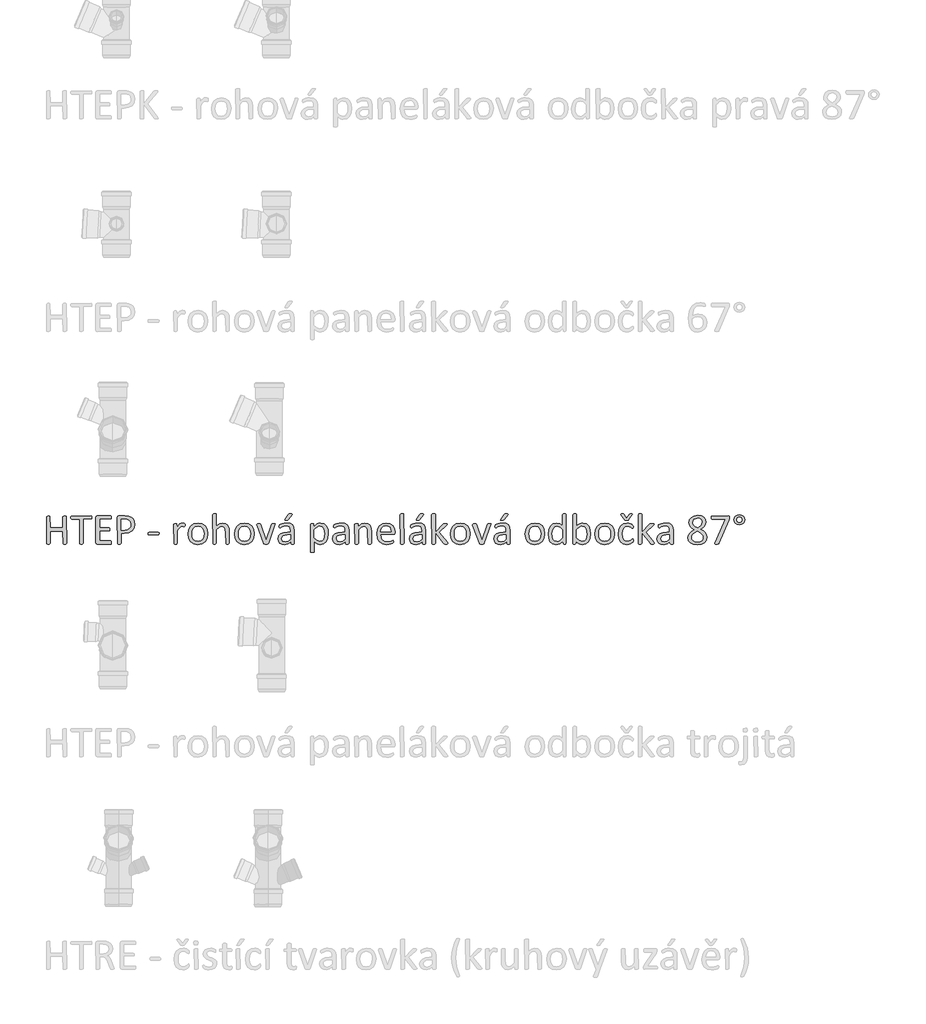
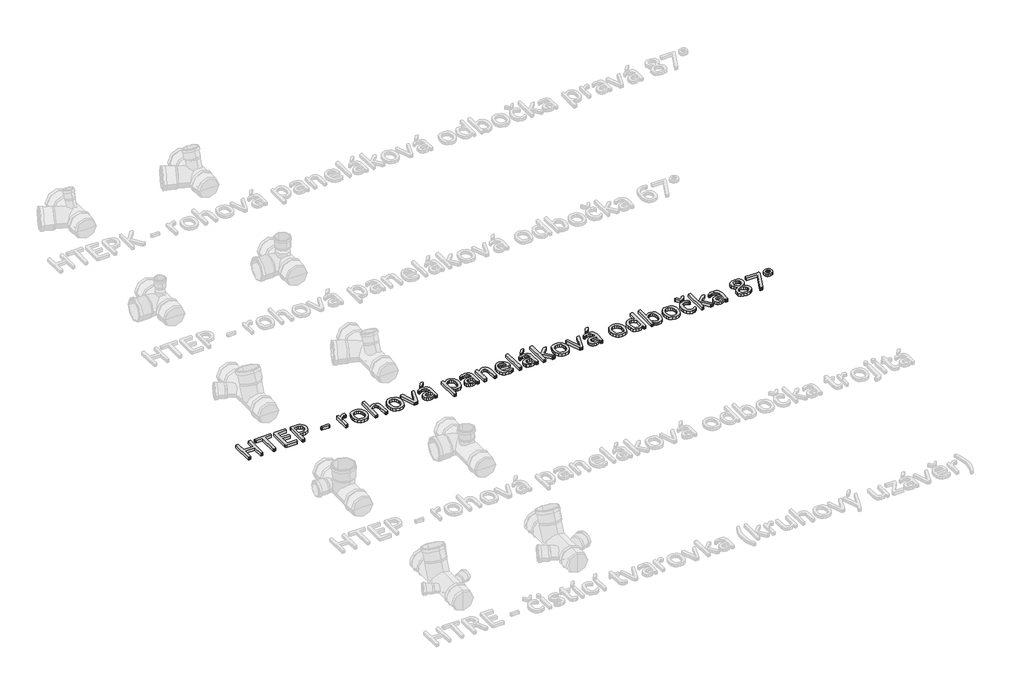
# One storey, part 10 of 26: 1 proxy.
"""IFC4 building model written with IfcOpenShell, lengths in millimetres."""

from ifc_helpers import new_model, si_unit, origin, origin_with_axes, place, context, project, spatial, polyline, outline, extrude, element, save

model = new_model("IFC4")

# Units and contexts
model_context = context("Model", 3, world=origin())
ifc_project = project(units=[si_unit("LENGTHUNIT", "METRE", prefix="MILLI")], contexts=[model_context])

# Site, building, storey
site = spatial("IfcSite", under=ifc_project)
building = spatial("IfcBuilding", under=site)
storey = spatial("IfcBuildingStorey", under=building, Name="Podlaží 1", Elevation=0.0)

# Proxy
placement = place(None, origin())
element("IfcBuildingElementProxy", 1, Name="120mm Arial", ObjectType="120mm Arial", at=placement, inside=storey, context=model_context, shape_type="SweptSolid", body=[
    extrude(outline(polyline([(-20465.0657483, 1508.0506997), (-20469.2817655, 1505.3184311), (-20473.1358927, 1505.0832026), (-20477.1166815, 1505.3184311), (-20479.5775327, 1505.8612659), (-20481.2784151, 1560.6694889), (-20534.5486061, 1560.6694889), (-20534.5486061, 1508.0145107), (-20538.7465288, 1505.3184311), (-20542.6549395, 1505.0832026), (-20546.5271613, 1505.3184311), (-20549.0603905, 1505.8793604), (-20550.7612729, 1622.5526591), (-20546.5271613, 1625.2849277), (-20542.6549395, 1625.5201562), (-20538.7465288, 1625.2849277), (-20536.2494886, 1624.7239984), (-20534.5486061, 1574.5660604), (-20481.2784151, 1574.5660604), (-20481.2784151, 1622.5526591), (-20477.1166815, 1625.2849277), (-20473.1358927, 1625.5201562), (-20469.2817655, 1625.2849277), (-20466.7666308, 1624.7239984), (-20465.0657483, 1508.0506997)])), origin_with_axes(), (0.0, 0.0, 1.0), 15.0),
    extrude(outline(polyline([(-20356.2092711, 1618.4633034), (-20356.390216, 1615.3329559), (-20356.9873343, 1613.1978056), (-20393.2667952, 1611.6235846), (-20393.2667952, 1508.0506997), (-20397.4647179, 1505.3184311), (-20401.3731287, 1505.0832026), (-20405.2453504, 1505.3184311), (-20407.7785796, 1505.8793604), (-20409.4794621, 1611.6235846), (-20443.3885442, 1611.6235846), (-20446.3017578, 1615.3329559), (-20446.5369862, 1618.4633034), (-20446.3017578, 1621.6660289), (-20445.686545, 1623.9097462), (-20359.3939021, 1625.5201562), (-20357.0054288, 1623.9097462), (-20356.390216, 1621.6660289), (-20356.2092711, 1618.4633034)])), origin_with_axes(), (0.0, 0.0, 1.0), 15.0),
    extrude(outline(polyline([(-20272.8298417, 1511.9952994), (-20273.0107867, 1508.9192354), (-20273.6621885, 1506.7298016), (-20274.7478581, 1505.463187), (-20334.0254212, 1505.0832026), (-20338.0785879, 1506.5307622), (-20339.9966043, 1511.5972206), (-20339.9966043, 1619.0061382), (-20338.0604934, 1624.0725966), (-20333.9530432, 1625.5201562), (-20276.0506617, 1625.5201562), (-20273.680283, 1623.8735572), (-20273.0650701, 1621.6841234), (-20272.8298417, 1618.4271144), (-20273.0650701, 1615.3691449), (-20273.680283, 1613.2159001), (-20323.7839374, 1611.6235846), (-20323.7839374, 1574.5660604), (-20282.9627585, 1574.5660604), (-20280.5742852, 1572.865178), (-20279.9590724, 1570.6757442), (-20279.7781275, 1567.3644517), (-20279.9590724, 1564.2702932), (-20280.5742852, 1562.1713319), (-20323.7839374, 1560.6694889), (-20323.7839374, 1518.9797742), (-20276.0868507, 1518.9797742), (-20273.6621885, 1517.3874587), (-20273.0107867, 1515.2342139), (-20272.8298417, 1511.9952994)])), origin_with_axes(), (0.0, 0.0, 1.0), 15.0),
    extrude(outline(polyline([(-20173.2377455, 1590.4892153), (-20176.2052426, 1574.3127375), (-20184.7096549, 1562.0265759), (-20198.2805255, 1554.1735655), (-20217.4606894, 1551.4051078), (-20231.140127, 1551.4051078), (-20231.140127, 1508.0506997), (-20232.8771985, 1505.8793604), (-20235.3380497, 1505.3184311), (-20239.2464605, 1505.0832026), (-20243.1548712, 1505.3184311), (-20245.6519114, 1505.8793604), (-20247.3527939, 1618.6804373), (-20245.3985885, 1623.9459352), (-20241.0197209, 1625.5201562), (-20215.1807831, 1625.5201562), (-20207.6896625, 1625.1944553), (-20199.2033447, 1623.8011792), (-20189.2151839, 1619.838485), (-20180.6022047, 1612.6911598), (-20175.1557619, 1602.8477549), (-20173.2377455, 1590.4892153)]), holes=[polyline([(-20189.4504124, 1589.2226008), (-20192.2369645, 1601.0021165), (-20199.1309668, 1608.0408747), (-20207.6172846, 1610.9902773), (-20216.1578858, 1611.6235846), (-20231.140127, 1611.6235846), (-20231.140127, 1565.3016794), (-20216.5197757, 1565.3016794), (-20204.3059921, 1567.0930343), (-20196.1453752, 1572.0509257), (-20191.1512948, 1579.6325188), (-20189.4504124, 1589.2226008)])]), origin_with_axes(), (0.0, 0.0, 1.0), 15.0),
    extrude(outline(polyline([(-20069.0134588, 1550.2832492), (-20069.8639001, 1545.7234367), (-20072.3428458, 1544.4568221), (-20111.9335991, 1544.4568221), (-20114.4849228, 1545.7596256), (-20115.335364, 1550.2832492), (-20114.4849228, 1554.7706838), (-20111.9335991, 1556.0372984), (-20072.3428458, 1556.0372984), (-20069.2486873, 1552.9974233), (-20069.0134588, 1550.2832492)])), origin_with_axes(), (0.0, 0.0, 1.0), 15.0),
    extrude(outline(polyline([(-19957.8408864, 1586.1465367), (-19957.9313588, 1582.8533388), (-19958.2932487, 1580.7181885), (-19961.8397696, 1579.5058574), (-19964.1739593, 1580.3382041), (-19967.0871729, 1581.1343618), (-19970.5794103, 1581.5143462), (-19974.9944669, 1580.519149), (-19979.5361849, 1577.2621401), (-19984.5121708, 1571.254768), (-19990.26622, 1562.0808594), (-19990.26622, 1507.9059437), (-19994.3917647, 1505.2641476), (-19998.4087424, 1505.0832026), (-20002.3533421, 1505.2641476), (-20004.8503823, 1505.8069824), (-20006.4788868, 1590.2720814), (-20002.751421, 1592.9500666), (-19999.0963332, 1593.0948225), (-19995.5136233, 1592.9500666), (-19993.306095, 1592.4072317), (-19991.8223465, 1578.2573373), (-19985.5616515, 1586.8341275), (-19980.0066418, 1592.0634363), (-19974.8316164, 1594.687138), (-19969.6384966, 1595.4109178), (-19966.9967004, 1595.2842563), (-19963.8844474, 1594.795705), (-19960.9531394, 1593.9814527), (-19959.107501, 1593.0948225), (-19957.8770754, 1589.4035457), (-19957.8408864, 1586.1465367)])), origin_with_axes(), (0.0, 0.0, 1.0), 15.0),
    extrude(outline(polyline([(-19860.5648854, 1549.9937373), (-19863.2428706, 1531.0126129), (-19871.2587315, 1516.0665606), (-19884.6124683, 1506.2774393), (-19903.1955138, 1502.7671074), (-19921.1090631, 1505.8612659), (-19933.847587, 1514.8542295), (-19941.4472746, 1529.1850689), (-19943.9443148, 1548.2928548), (-19941.3025186, 1567.2739793), (-19933.3409412, 1582.201937), (-19920.0414879, 1591.9367749), (-19901.4222534, 1595.4109178), (-19883.4906096, 1592.3167593), (-19870.7520857, 1583.3237956), (-19863.1162091, 1568.9929562), (-19860.5648854, 1549.9937373)]), holes=[polyline([(-19876.7775523, 1548.9080676), (-19878.0260724, 1561.4837411), (-19882.1335226, 1571.8699808), (-19889.8598716, 1578.9268335), (-19902.0374662, 1581.5143462), (-19913.599848, 1579.1439675), (-19921.5614255, 1572.4490046), (-19926.2117105, 1562.2075209), (-19927.731648, 1549.2699575), (-19926.4831279, 1536.6219061), (-19922.3394887, 1526.2718554), (-19914.5588562, 1519.2511916), (-19902.3993561, 1516.6636789), (-19890.8731633, 1519.0340577), (-19882.8573023, 1525.6747371), (-19878.2432063, 1535.8800318), (-19876.7775523, 1548.9080676)])]), origin_with_axes(), (0.0, 0.0, 1.0), 15.0),
    extrude(outline(polyline([(-19767.921075, 1507.9421327), (-19772.0466197, 1505.2641476), (-19775.9912195, 1505.0832026), (-19780.0081972, 1505.2641476), (-19782.4509539, 1505.8069824), (-19784.1337419, 1556.2906213), (-19785.201317, 1567.6539636), (-19788.2954755, 1575.0908008), (-19793.5609734, 1579.8677472), (-19801.0339995, 1581.5143462), (-19812.0173575, 1577.479274), (-19823.5073613, 1565.6273803), (-19823.5073613, 1507.9421327), (-19827.632906, 1505.2641476), (-19831.6498837, 1505.0832026), (-19835.5944834, 1505.2641476), (-19838.0915236, 1505.8250769), (-19839.7200281, 1631.8170401), (-19835.5944834, 1634.6035923), (-19831.6498837, 1634.7845372), (-19827.632906, 1634.6035923), (-19825.1901492, 1634.0426629), (-19823.9054402, 1633.1017492), (-19823.5073613, 1581.7314801), (-19810.4793254, 1592.0453419), (-19797.2703447, 1595.4109178), (-19783.4461511, 1592.5881767), (-19774.3808095, 1585.0427726), (-19769.4229181, 1573.9870366), (-19767.921075, 1558.6790945), (-19767.921075, 1507.9421327)])), origin_with_axes(), (0.0, 0.0, 1.0), 15.0),
    extrude(outline(polyline([(-19661.3806931, 1549.9937373), (-19664.0586782, 1531.0126129), (-19672.0745392, 1516.0665606), (-19685.4282759, 1506.2774393), (-19704.0113215, 1502.7671074), (-19721.9248707, 1505.8612659), (-19734.6633947, 1514.8542295), (-19742.2630822, 1529.1850689), (-19744.7601224, 1548.2928548), (-19742.1183263, 1567.2739793), (-19734.1567488, 1582.201937), (-19720.8572956, 1591.9367749), (-19702.238061, 1595.4109178), (-19684.3064173, 1592.3167593), (-19671.5678933, 1583.3237956), (-19663.9320168, 1568.9929562), (-19661.3806931, 1549.9937373)]), holes=[polyline([(-19677.5933599, 1548.9080676), (-19678.84188, 1561.4837411), (-19682.9493302, 1571.8699808), (-19690.6756792, 1578.9268335), (-19702.8532738, 1581.5143462), (-19714.4156556, 1579.1439675), (-19722.3772331, 1572.4490046), (-19727.0275181, 1562.2075209), (-19728.5474556, 1549.2699575), (-19727.2989355, 1536.6219061), (-19723.1552963, 1526.2718554), (-19715.3746638, 1519.2511916), (-19703.2151637, 1516.6636789), (-19691.6889709, 1519.0340577), (-19683.67311, 1525.6747371), (-19679.0590139, 1535.8800318), (-19677.5933599, 1548.9080676)])]), origin_with_axes(), (0.0, 0.0, 1.0), 15.0),
    extrude(outline(polyline([(-19572.0210334, 1591.502507), (-19600.5108145, 1508.3764006), (-19601.4879172, 1506.7298016), (-19603.2973666, 1505.7346044), (-19606.3553362, 1505.2279586), (-19611.0056212, 1505.0832026), (-19615.6197172, 1505.2641476), (-19618.6414977, 1505.8069824), (-19620.4509472, 1506.8202741), (-19621.4642388, 1508.3764006), (-19649.8364058, 1586.6169936), (-19650.4335241, 1588.5169155), (-19646.8327197, 1593.00435), (-19643.2500099, 1593.0948225), (-19638.9435203, 1592.9500666), (-19636.44648, 1592.4434207), (-19634.3475187, 1590.1635145), (-19610.7884872, 1522.2729721), (-19586.8675659, 1590.1635145), (-19584.895266, 1592.4434207), (-19582.4706038, 1592.9500666), (-19578.4355316, 1593.0948225), (-19574.9071052, 1593.00435), (-19572.0210334, 1591.502507)])), origin_with_axes(), (0.0, 0.0, 1.0), 15.0),
    extrude(outline(polyline([(-19515.5028807, 1631.4913392), (-19514.1638881, 1633.0836547), (-19512.3001552, 1634.0607574), (-19509.5678866, 1634.6035923), (-19505.6594758, 1634.7845372), (-19501.3167972, 1634.4769308), (-19499.000702, 1633.5903006), (-19499.2540249, 1630.6589925), (-19516.5523614, 1609.8503242), (-19517.9456374, 1608.4208591), (-19519.3751025, 1607.5704179), (-19521.4740638, 1607.1180555), (-19524.6948838, 1606.9913941), (-19528.0242707, 1607.2628115), (-19529.7613421, 1607.9865913), (-19529.3632633, 1610.8274268), (-19515.5028807, 1631.4913392)])), origin_with_axes(), (0.0, 0.0, 1.0), 15.0),
    extrude(outline(polyline([(-19489.9896438, 1507.8697547), (-19490.7858016, 1506.1869668), (-19492.9571409, 1505.35462), (-19497.0103076, 1505.0832026), (-19501.1177578, 1505.35462), (-19503.3433806, 1506.1869668), (-19504.0309714, 1507.8697547), (-19504.0309714, 1516.1932221), (-19516.2266605, 1506.5669512), (-19530.4851219, 1502.7671074), (-19542.4455826, 1504.4860843), (-19551.5471132, 1509.4620702), (-19557.3916348, 1517.4598367), (-19559.4725016, 1528.2441552), (-19556.5954771, 1540.5122223), (-19548.3443877, 1549.1613906), (-19535.1896904, 1554.3183214), (-19517.67422, 1556.0372984), (-19506.2023107, 1556.0372984), (-19506.2023107, 1562.9493951), (-19507.2156023, 1571.9966423), (-19510.4726113, 1578.5468492), (-19516.2809439, 1582.4914489), (-19525.0567736, 1583.8304415), (-19535.0992179, 1582.3828819), (-19542.8798504, 1579.198251), (-19548.4710492, 1576.01362), (-19551.8004361, 1574.5660604), (-19554.6593662, 1578.0944868), (-19554.8403111, 1580.7543775), (-19554.5146102, 1584.5542212), (-19552.9222947, 1587.2141119), (-19548.5796161, 1589.928286), (-19541.4865744, 1592.6062712), (-19532.7107447, 1594.61476), (-19523.1025683, 1595.4109178), (-19507.7222482, 1593.3662399), (-19497.46267, 1587.3950568), (-19491.7629043, 1577.6421245), (-19489.9896438, 1564.0350648), (-19489.9896438, 1507.8697547)]), holes=[polyline([(-19506.2023107, 1544.4568221), (-19519.0855905, 1544.4568221), (-19529.8337201, 1543.3892469), (-19537.4153132, 1540.2408049), (-19541.8484643, 1535.2467245), (-19543.2598348, 1528.5336671), (-19539.2066681, 1518.1836164), (-19527.8433257, 1514.3475837), (-19516.8418733, 1517.4055532), (-19506.2023107, 1526.7604067), (-19506.2023107, 1544.4568221)])]), origin_with_axes(), (0.0, 0.0, 1.0), 15.0),
    extrude(outline(polyline([(-19344.0756425, 1550.3556272), (-19346.3917377, 1530.505967), (-19353.1952675, 1515.5599148), (-19364.3233815, 1506.0964943), (-19379.5046621, 1502.7671074), (-19386.2177195, 1503.5089816), (-19392.2612806, 1505.8612659), (-19398.1238967, 1509.8963381), (-19404.2941192, 1515.6141983), (-19404.2941192, 1473.3454598), (-19405.9769072, 1471.083648), (-19408.4196639, 1470.5227187), (-19412.4366416, 1470.3417737), (-19416.3812414, 1470.5227187), (-19418.8782816, 1471.083648), (-19420.1629907, 1472.0245617), (-19420.1629907, 1590.1997034), (-19416.7793202, 1592.9500666), (-19413.4137443, 1593.0948225), (-19410.0300739, 1592.9681611), (-19407.8225456, 1592.4977042), (-19406.2483246, 1579.8496527), (-19399.0648104, 1586.6893716), (-19392.0984301, 1591.5206015), (-19384.8968214, 1594.4338151), (-19377.1161889, 1595.4109178), (-19361.9168138, 1591.8463024), (-19351.67533, 1582.1114645), (-19345.9031864, 1567.7444361), (-19344.0756425, 1550.3556272)]), holes=[polyline([(-19360.2883093, 1548.5823667), (-19361.229223, 1560.8504338), (-19364.4681374, 1571.3814295), (-19370.63836, 1578.7458886), (-19380.2646309, 1581.5143462), (-19385.9463021, 1580.663905), (-19391.6098788, 1577.9497309), (-19397.6353453, 1573.0642174), (-19404.2941192, 1565.6273803), (-19404.2941192, 1532.080188), (-19392.6955484, 1520.6263732), (-19381.1693556, 1516.6636789), (-19371.5792737, 1519.4321366), (-19365.1014447, 1526.7965957), (-19361.4644514, 1537.0923629), (-19360.2883093, 1548.5823667)])]), origin_with_axes(), (0.0, 0.0, 1.0), 15.0),
    extrude(outline(polyline([(-19256.0640226, 1507.8697547), (-19256.8601803, 1506.1869668), (-19259.0315196, 1505.35462), (-19263.0846863, 1505.0832026), (-19267.1921365, 1505.35462), (-19269.4177593, 1506.1869668), (-19270.1053501, 1507.8697547), (-19270.1053501, 1516.1932221), (-19282.3010392, 1506.5669512), (-19296.5595006, 1502.7671074), (-19308.5199613, 1504.4860843), (-19317.6214919, 1509.4620702), (-19323.4660135, 1517.4598367), (-19325.5468804, 1528.2441552), (-19322.6698558, 1540.5122223), (-19314.4187664, 1549.1613906), (-19301.2640691, 1554.3183214), (-19283.7485987, 1556.0372984), (-19272.2766894, 1556.0372984), (-19272.2766894, 1562.9493951), (-19273.2899811, 1571.9966423), (-19276.54699, 1578.5468492), (-19282.3553227, 1582.4914489), (-19291.1311524, 1583.8304415), (-19301.1735967, 1582.3828819), (-19308.9542292, 1579.198251), (-19314.5454279, 1576.01362), (-19317.8748148, 1574.5660604), (-19320.7337449, 1578.0944868), (-19320.9146899, 1580.7543775), (-19320.588989, 1584.5542212), (-19318.9966735, 1587.2141119), (-19314.6539949, 1589.928286), (-19307.5609531, 1592.6062712), (-19298.7851234, 1594.61476), (-19289.176947, 1595.4109178), (-19273.7966269, 1593.3662399), (-19263.5370487, 1587.3950568), (-19257.837283, 1577.6421245), (-19256.0640226, 1564.0350648), (-19256.0640226, 1507.8697547)]), holes=[polyline([(-19272.2766894, 1544.4568221), (-19285.1599693, 1544.4568221), (-19295.9080988, 1543.3892469), (-19303.4896919, 1540.2408049), (-19307.922843, 1535.2467245), (-19309.3342136, 1528.5336671), (-19305.2810469, 1518.1836164), (-19293.9177045, 1514.3475837), (-19282.916252, 1517.4055532), (-19272.2766894, 1526.7604067), (-19272.2766894, 1544.4568221)])]), origin_with_axes(), (0.0, 0.0, 1.0), 15.0),
    extrude(outline(polyline([(-19158.7880217, 1507.9421327), (-19162.9135663, 1505.2641476), (-19166.8581661, 1505.0832026), (-19170.8751438, 1505.2641476), (-19173.3179005, 1505.8069824), (-19175.0006885, 1556.2906213), (-19176.0682636, 1567.6539636), (-19179.1624222, 1575.0908008), (-19184.42792, 1579.8677472), (-19191.9009461, 1581.5143462), (-19202.8843041, 1577.479274), (-19214.3743079, 1565.6273803), (-19214.3743079, 1507.9421327), (-19218.4998526, 1505.2641476), (-19222.5168303, 1505.0832026), (-19226.46143, 1505.2641476), (-19228.9584702, 1505.8069824), (-19230.5869747, 1590.2720814), (-19226.8595089, 1592.9500666), (-19223.2044211, 1593.0948225), (-19219.6217112, 1592.9500666), (-19217.4141829, 1592.4072317), (-19215.9304344, 1579.3791959), (-19202.0881463, 1591.5567905), (-19188.1734803, 1595.4109178), (-19174.3492867, 1592.5881767), (-19165.2658506, 1585.0427726), (-19160.2898647, 1573.9870366), (-19158.7880217, 1558.7514725), (-19158.7880217, 1507.9421327)])), origin_with_axes(), (0.0, 0.0, 1.0), 15.0),
    extrude(outline(polyline([(-19059.1959255, 1553.3955022), (-19060.9872804, 1548.2928548), (-19065.0947306, 1546.7729173), (-19119.4144022, 1546.7729173), (-19118.0573152, 1533.3829916), (-19113.5517861, 1523.1776969), (-19105.3368857, 1516.6274899), (-19092.9602517, 1514.3475837), (-19082.682579, 1515.4151588), (-19074.8657575, 1517.8217266), (-19069.4555037, 1520.2282943), (-19066.2527782, 1521.2958695), (-19063.9547775, 1518.4007504), (-19063.828116, 1515.7589542), (-19063.9185885, 1513.8228433), (-19068.369834, 1508.4306841), (-19074.7210015, 1505.9336439), (-19083.7682486, 1503.7442101), (-19094.7335121, 1502.7671074), (-19112.411833, 1505.6622265), (-19125.1684514, 1514.2752057), (-19132.9852729, 1528.6241396), (-19135.6270691, 1548.6547447), (-19132.8586114, 1568.1967985), (-19124.8789395, 1582.8895278), (-19112.2851715, 1592.1720033), (-19095.7468038, 1595.4109178), (-19079.0998691, 1592.2805703), (-19067.7908102, 1583.848536), (-19061.2767923, 1571.4176184), (-19059.1959255, 1556.1820543), (-19059.1959255, 1553.3955022)]), holes=[polyline([(-19075.4085923, 1558.3533936), (-19076.5802108, 1568.9793853), (-19080.6017121, 1577.0450061), (-19087.3735766, 1582.1340826), (-19096.7962845, 1583.8304415), (-19106.4406499, 1581.7314801), (-19113.3708412, 1576.1402814), (-19117.6954253, 1568.0158535), (-19119.4144022, 1558.3533936), (-19075.4085923, 1558.3533936)])]), origin_with_axes(), (0.0, 0.0, 1.0), 15.0),
    extrude(outline(polyline([(-19019.8223061, 1507.9421327), (-19023.9478507, 1505.2641476), (-19027.9648285, 1505.0832026), (-19031.9094282, 1505.2641476), (-19034.4064684, 1505.8250769), (-19036.0349729, 1631.8170401), (-19031.9094282, 1634.6035923), (-19027.9648285, 1634.7845372), (-19023.9478507, 1634.6035923), (-19021.505094, 1634.0426629), (-19019.8223061, 1507.9421327)])), origin_with_axes(), (0.0, 0.0, 1.0), 15.0),
    extrude(outline(polyline([(-18952.6917325, 1631.4913392), (-18951.3527399, 1633.0836547), (-18949.489007, 1634.0607574), (-18946.7567384, 1634.6035923), (-18942.8483277, 1634.7845372), (-18938.505649, 1634.4769308), (-18936.1895538, 1633.5903006), (-18936.4428767, 1630.6589925), (-18953.7412132, 1609.8503242), (-18955.1344892, 1608.4208591), (-18956.5639543, 1607.5704179), (-18958.6629156, 1607.1180555), (-18961.8837356, 1606.9913941), (-18965.2131225, 1607.2628115), (-18966.950194, 1607.9865913), (-18966.5521151, 1610.8274268), (-18952.6917325, 1631.4913392)])), origin_with_axes(), (0.0, 0.0, 1.0), 15.0),
    extrude(outline(polyline([(-18927.1784957, 1507.8697547), (-18927.9746534, 1506.1869668), (-18930.1459927, 1505.35462), (-18934.1991594, 1505.0832026), (-18938.3066096, 1505.35462), (-18940.5322324, 1506.1869668), (-18941.2198232, 1507.8697547), (-18941.2198232, 1516.1932221), (-18953.4155123, 1506.5669512), (-18967.6739737, 1502.7671074), (-18979.6344344, 1504.4860843), (-18988.735965, 1509.4620702), (-18994.5804866, 1517.4598367), (-18996.6613535, 1528.2441552), (-18993.7843289, 1540.5122223), (-18985.5332395, 1549.1613906), (-18972.3785422, 1554.3183214), (-18954.8630718, 1556.0372984), (-18943.3911625, 1556.0372984), (-18943.3911625, 1562.9493951), (-18944.4044542, 1571.9966423), (-18947.6614631, 1578.5468492), (-18953.4697958, 1582.4914489), (-18962.2456255, 1583.8304415), (-18972.2880697, 1582.3828819), (-18980.0687023, 1579.198251), (-18985.659901, 1576.01362), (-18988.9892879, 1574.5660604), (-18991.848218, 1578.0944868), (-18992.0291629, 1580.7543775), (-18991.703462, 1584.5542212), (-18990.1111466, 1587.2141119), (-18985.7684679, 1589.928286), (-18978.6754262, 1592.6062712), (-18969.8995965, 1594.61476), (-18960.2914201, 1595.4109178), (-18944.9111, 1593.3662399), (-18934.6515218, 1587.3950568), (-18928.9517561, 1577.6421245), (-18927.1784957, 1564.0350648), (-18927.1784957, 1507.8697547)]), holes=[polyline([(-18943.3911625, 1544.4568221), (-18956.2744424, 1544.4568221), (-18967.0225719, 1543.3892469), (-18974.604165, 1540.2408049), (-18979.0373161, 1535.2467245), (-18980.4486866, 1528.5336671), (-18976.3955199, 1518.1836164), (-18965.0321776, 1514.3475837), (-18954.0307251, 1517.4055532), (-18943.3911625, 1526.7604067), (-18943.3911625, 1544.4568221)])]), origin_with_axes(), (0.0, 0.0, 1.0), 15.0),
    extrude(outline(polyline([(-18832.21859, 1508.0145107), (-18836.2898512, 1505.2641476), (-18840.2887344, 1505.0832026), (-18844.4142791, 1505.2279586), (-18847.1646422, 1505.6803209), (-18848.9740916, 1506.5850457), (-18850.2407062, 1508.0145107), (-18885.488781, 1553.5764471), (-18885.488781, 1507.9059437), (-18889.6143257, 1505.2641476), (-18893.6313034, 1505.0832026), (-18897.5759031, 1505.2641476), (-18900.0729433, 1505.8250769), (-18901.7014478, 1631.8170401), (-18897.5759031, 1634.6035923), (-18893.6313034, 1634.7845372), (-18889.6143257, 1634.6035923), (-18887.1715689, 1634.0426629), (-18885.8868599, 1633.1017492), (-18885.488781, 1555.6754085), (-18853.2805813, 1589.9101915), (-18851.6701713, 1591.4120346), (-18849.6435879, 1592.4072317), (-18846.8570358, 1592.9500666), (-18842.9667196, 1593.0948225), (-18838.9859308, 1592.9500666), (-18836.3984182, 1592.4977042), (-18834.9689531, 1591.683452), (-18835.1679926, 1588.1550256), (-18837.2850484, 1585.6037019), (-18869.2761142, 1555.7839754), (-18834.4984963, 1512.3210003), (-18832.7433303, 1509.8058656), (-18832.21859, 1508.0145107)])), origin_with_axes(), (0.0, 0.0, 1.0), 15.0),
    extrude(outline(polyline([(-18737.2586843, 1549.9937373), (-18739.9366695, 1531.0126129), (-18747.9525304, 1516.0665606), (-18761.3062672, 1506.2774393), (-18779.8893127, 1502.7671074), (-18797.802862, 1505.8612659), (-18810.5413859, 1514.8542295), (-18818.1410735, 1529.1850689), (-18820.6381137, 1548.2928548), (-18817.9963175, 1567.2739793), (-18810.0347401, 1582.201937), (-18796.7352868, 1591.9367749), (-18778.1160523, 1595.4109178), (-18760.1844085, 1592.3167593), (-18747.4458846, 1583.3237956), (-18739.810008, 1568.9929562), (-18737.2586843, 1549.9937373)]), holes=[polyline([(-18753.4713512, 1548.9080676), (-18754.7198713, 1561.4837411), (-18758.8273214, 1571.8699808), (-18766.5536705, 1578.9268335), (-18778.7312651, 1581.5143462), (-18790.2936469, 1579.1439675), (-18798.2552243, 1572.4490046), (-18802.9055094, 1562.2075209), (-18804.4254469, 1549.2699575), (-18803.1769268, 1536.6219061), (-18799.0332876, 1526.2718554), (-18791.2526551, 1519.2511916), (-18779.093155, 1516.6636789), (-18767.5669622, 1519.0340577), (-18759.5511012, 1525.6747371), (-18754.9370052, 1535.8800318), (-18753.4713512, 1548.9080676)])]), origin_with_axes(), (0.0, 0.0, 1.0), 15.0),
    extrude(outline(polyline([(-18647.8990246, 1591.502507), (-18676.3888058, 1508.3764006), (-18677.3659085, 1506.7298016), (-18679.1753579, 1505.7346044), (-18682.2333274, 1505.2279586), (-18686.8836124, 1505.0832026), (-18691.4977085, 1505.2641476), (-18694.519489, 1505.8069824), (-18696.3289384, 1506.8202741), (-18697.3422301, 1508.3764006), (-18725.714397, 1586.6169936), (-18726.3115153, 1588.5169155), (-18722.710711, 1593.00435), (-18719.1280011, 1593.0948225), (-18714.8215115, 1592.9500666), (-18712.3244713, 1592.4434207), (-18710.22551, 1590.1635145), (-18686.6664785, 1522.2729721), (-18662.7455571, 1590.1635145), (-18660.7732573, 1592.4434207), (-18658.348595, 1592.9500666), (-18654.3135228, 1593.0948225), (-18650.7850965, 1593.00435), (-18647.8990246, 1591.502507)])), origin_with_axes(), (0.0, 0.0, 1.0), 15.0),
    extrude(outline(polyline([(-18565.8676351, 1507.8697547), (-18566.6637928, 1506.1869668), (-18568.8351321, 1505.35462), (-18572.8882989, 1505.0832026), (-18576.995749, 1505.35462), (-18579.2213718, 1506.1869668), (-18579.9089626, 1507.8697547), (-18579.9089626, 1516.1932221), (-18592.1046517, 1506.5669512), (-18606.3631132, 1502.7671074), (-18618.3235738, 1504.4860843), (-18627.4251044, 1509.4620702), (-18633.2696261, 1517.4598367), (-18635.3504929, 1528.2441552), (-18632.4734683, 1540.5122223), (-18624.222379, 1549.1613906), (-18611.0676817, 1554.3183214), (-18593.5522113, 1556.0372984), (-18582.0803019, 1556.0372984), (-18582.0803019, 1562.9493951), (-18583.0935936, 1571.9966423), (-18586.3506026, 1578.5468492), (-18592.1589352, 1582.4914489), (-18600.9347649, 1583.8304415), (-18610.9772092, 1582.3828819), (-18618.7578417, 1579.198251), (-18624.3490404, 1576.01362), (-18627.6784273, 1574.5660604), (-18630.5373574, 1578.0944868), (-18630.7183024, 1580.7543775), (-18630.3926015, 1584.5542212), (-18628.800286, 1587.2141119), (-18624.4576074, 1589.928286), (-18617.3645656, 1592.6062712), (-18608.5887359, 1594.61476), (-18598.9805595, 1595.4109178), (-18583.6002394, 1593.3662399), (-18573.3406612, 1587.3950568), (-18567.6408955, 1577.6421245), (-18565.8676351, 1564.0350648), (-18565.8676351, 1507.8697547)]), holes=[polyline([(-18582.0803019, 1544.4568221), (-18594.9635818, 1544.4568221), (-18605.7117114, 1543.3892469), (-18613.2933044, 1540.2408049), (-18617.7264555, 1535.2467245), (-18619.1378261, 1528.5336671), (-18615.0846594, 1518.1836164), (-18603.721317, 1514.3475837), (-18592.7198645, 1517.4055532), (-18582.0803019, 1526.7604067), (-18582.0803019, 1544.4568221)])]), origin_with_axes(), (0.0, 0.0, 1.0), 15.0),
    extrude(outline(polyline([(-18591.3808719, 1631.4913392), (-18590.0418794, 1633.0836547), (-18588.1781465, 1634.0607574), (-18585.4458778, 1634.6035923), (-18581.5374671, 1634.7845372), (-18577.1947885, 1634.4769308), (-18574.8786932, 1633.5903006), (-18575.1320161, 1630.6589925), (-18592.4303526, 1609.8503242), (-18593.8236287, 1608.4208591), (-18595.2530937, 1607.5704179), (-18597.352055, 1607.1180555), (-18600.572875, 1606.9913941), (-18603.9022619, 1607.2628115), (-18605.6393334, 1607.9865913), (-18605.2412545, 1610.8274268), (-18591.3808719, 1631.4913392)])), origin_with_axes(), (0.0, 0.0, 1.0), 15.0),
    extrude(outline(polyline([(-18417.6375385, 1549.9937373), (-18420.3155236, 1531.0126129), (-18428.3313845, 1516.0665606), (-18441.6851213, 1506.2774393), (-18460.2681668, 1502.7671074), (-18478.1817161, 1505.8612659), (-18490.92024, 1514.8542295), (-18498.5199276, 1529.1850689), (-18501.0169678, 1548.2928548), (-18498.3751717, 1567.2739793), (-18490.4135942, 1582.201937), (-18477.114141, 1591.9367749), (-18458.4949064, 1595.4109178), (-18440.5632626, 1592.3167593), (-18427.8247387, 1583.3237956), (-18420.1888621, 1568.9929562), (-18417.6375385, 1549.9937373)]), holes=[polyline([(-18433.8502053, 1548.9080676), (-18435.0987254, 1561.4837411), (-18439.2061756, 1571.8699808), (-18446.9325246, 1578.9268335), (-18459.1101192, 1581.5143462), (-18470.672501, 1579.1439675), (-18478.6340785, 1572.4490046), (-18483.2843635, 1562.2075209), (-18484.804301, 1549.2699575), (-18483.5557809, 1536.6219061), (-18479.4121417, 1526.2718554), (-18471.6315092, 1519.2511916), (-18459.4720091, 1516.6636789), (-18447.9458163, 1519.0340577), (-18439.9299553, 1525.6747371), (-18435.3158593, 1535.8800318), (-18433.8502053, 1548.9080676)])]), origin_with_axes(), (0.0, 0.0, 1.0), 15.0),
    extrude(outline(polyline([(-18325.319429, 1507.9783217), (-18328.7030994, 1505.2641476), (-18332.0143918, 1505.0832026), (-18335.4523457, 1505.2641476), (-18337.696063, 1505.7346044), (-18339.3607565, 1518.0388605), (-18352.8049657, 1506.8021796), (-18368.0586243, 1502.7671074), (-18383.4751334, 1506.3679117), (-18393.8070896, 1516.1027496), (-18399.5973277, 1530.542156), (-18401.4248716, 1548.0033429), (-18399.1449654, 1567.6358691), (-18392.4138135, 1582.5819214), (-18381.376172, 1592.0815308), (-18366.1406079, 1595.4109178), (-18352.9859106, 1592.1720033), (-18341.2063949, 1582.6723938), (-18341.2063949, 1631.7808512), (-18339.5417014, 1633.9883794), (-18337.0446612, 1634.5493088), (-18333.2086284, 1634.7845372), (-18329.1916507, 1634.5493088), (-18326.748894, 1633.9883794), (-18325.4279959, 1633.0655602), (-18325.319429, 1507.9783217)]), holes=[polyline([(-18341.2063949, 1566.1702151), (-18352.8230602, 1577.587841), (-18364.5121034, 1581.5143462), (-18374.1021854, 1578.7639831), (-18380.5076363, 1571.5080909), (-18384.0903462, 1561.3027962), (-18385.2122048, 1549.7404144), (-18384.2712911, 1537.5085363), (-18380.9961877, 1526.9051627), (-18374.8078706, 1519.4683255), (-18365.1273162, 1516.6636789), (-18359.445645, 1517.4779312), (-18353.8363518, 1520.1740108), (-18347.8470743, 1525.0595243), (-18341.2063949, 1532.4782669), (-18341.2063949, 1566.1702151)])]), origin_with_axes(), (0.0, 0.0, 1.0), 15.0),
    extrude(outline(polyline([(-18220.7694414, 1550.1746822), (-18223.0855366, 1530.4516835), (-18229.9071609, 1515.5056313), (-18240.9809914, 1506.0422108), (-18256.0175161, 1502.7671074), (-18263.2553138, 1503.5632651), (-18269.7693317, 1506.1507778), (-18276.1385937, 1510.6563069), (-18282.8697455, 1517.2065138), (-18282.8697455, 1507.7611878), (-18286.7600618, 1505.2641476), (-18290.1437322, 1505.0832026), (-18293.4731191, 1505.2641476), (-18295.7349309, 1505.7707934), (-18297.2005849, 1631.8170401), (-18293.0750403, 1634.6035923), (-18289.1304405, 1634.7845372), (-18285.1134628, 1634.6035923), (-18282.6707061, 1634.0426629), (-18281.385997, 1633.1017492), (-18280.9879181, 1581.5505352), (-18273.9491599, 1588.0102696), (-18267.2722915, 1592.2805703), (-18260.7401791, 1594.6690435), (-18253.8461768, 1595.4109178), (-18238.6287072, 1591.7558299), (-18228.3510344, 1581.9667086), (-18222.5788908, 1567.5815857), (-18220.7694414, 1550.1746822)]), holes=[polyline([(-18236.9821082, 1548.4014218), (-18237.9230219, 1560.7237724), (-18241.2162198, 1571.3090515), (-18247.4226313, 1578.7096996), (-18257.0669968, 1581.5143462), (-18262.712479, 1580.700094), (-18268.3760556, 1577.9859198), (-18274.3653332, 1573.1185009), (-18280.9879181, 1565.6273803), (-18280.9879181, 1532.00781), (-18269.2988749, 1520.5901842), (-18257.6822096, 1516.6636789), (-18248.1464111, 1519.4321366), (-18241.7047712, 1526.7423122), (-18238.1039668, 1536.947607), (-18236.9821082, 1548.4014218)])]), origin_with_axes(), (0.0, 0.0, 1.0), 15.0),
    extrude(outline(polyline([(-18118.8612499, 1549.9937373), (-18121.5392351, 1531.0126129), (-18129.555096, 1516.0665606), (-18142.9088327, 1506.2774393), (-18161.4918783, 1502.7671074), (-18179.4054276, 1505.8612659), (-18192.1439515, 1514.8542295), (-18199.7436391, 1529.1850689), (-18202.2406793, 1548.2928548), (-18199.5988831, 1567.2739793), (-18191.6373057, 1582.201937), (-18178.3378524, 1591.9367749), (-18159.7186179, 1595.4109178), (-18141.7869741, 1592.3167593), (-18129.0484502, 1583.3237956), (-18121.4125736, 1568.9929562), (-18118.8612499, 1549.9937373)]), holes=[polyline([(-18135.0739167, 1548.9080676), (-18136.3224368, 1561.4837411), (-18140.429887, 1571.8699808), (-18148.1562361, 1578.9268335), (-18160.3338307, 1581.5143462), (-18171.8962125, 1579.1439675), (-18179.8577899, 1572.4490046), (-18184.5080749, 1562.2075209), (-18186.0280125, 1549.2699575), (-18184.7794924, 1536.6219061), (-18180.6358532, 1526.2718554), (-18172.8552207, 1519.2511916), (-18160.6957205, 1516.6636789), (-18149.1695277, 1519.0340577), (-18141.1536668, 1525.6747371), (-18136.5395708, 1535.8800318), (-18135.0739167, 1548.9080676)])]), origin_with_axes(), (0.0, 0.0, 1.0), 15.0),
    extrude(outline(polyline([(-18055.1686303, 1632.1065521), (-18054.0105826, 1633.3912611), (-18050.7173847, 1634.6578757), (-18047.8222656, 1634.7845372), (-18044.0405163, 1634.4769308), (-18042.2310669, 1633.5903006), (-18043.588154, 1629.7904568), (-18058.5342062, 1609.3074893), (-18059.7103483, 1608.1494417), (-18061.3026638, 1607.4799454), (-18063.6187591, 1607.1180555), (-18066.9662405, 1606.9913941), (-18070.1146825, 1607.1180555), (-18072.3403053, 1607.5161344), (-18073.8783373, 1608.2399142), (-18089.9100592, 1629.7904568), (-18091.3033352, 1632.0160796), (-18089.4034133, 1634.4769308), (-18085.6397585, 1634.7845372), (-18082.5275055, 1634.6578757), (-18080.6456781, 1634.2055134), (-18078.3295829, 1632.1065521), (-18066.7491066, 1615.9300742), (-18055.1686303, 1632.1065521)])), origin_with_axes(), (0.0, 0.0, 1.0), 15.0),
    extrude(outline(polyline([(-18037.7979158, 1521.7301373), (-18037.8883883, 1519.1969081), (-18038.2140892, 1517.3874587), (-18040.2044835, 1513.7504654), (-18044.0947998, 1510.222039), (-18050.2650223, 1506.4764787), (-18057.7018595, 1503.7984935), (-18066.0253268, 1502.7671074), (-18081.7313478, 1505.7707934), (-18093.1851626, 1514.5466231), (-18100.2239209, 1528.6965176), (-18102.6485831, 1548.0395319), (-18099.681086, 1569.4815076), (-18091.5566581, 1584.1561424), (-18079.4152525, 1592.6424602), (-18064.2882554, 1595.4109178), (-18056.6523788, 1594.5966655), (-18049.848849, 1592.4615152), (-18044.3119337, 1589.4216402), (-18040.8016019, 1586.4722376), (-18039.2997588, 1584.5361267), (-18038.6121681, 1582.9980947), (-18038.2502782, 1581.0981728), (-18038.1598057, 1578.4382822), (-18038.9740579, 1573.6251467), (-18040.9463578, 1572.2499652), (-18044.0767053, 1573.6975247), (-18048.5460454, 1576.8821557), (-18055.1143468, 1580.0667867), (-18064.1796884, 1581.5143462), (-18073.701916, 1579.4153849), (-18080.6999616, 1573.1185009), (-18085.0019276, 1562.8227337), (-18086.4359163, 1548.7271227), (-18084.9521677, 1534.7219842), (-18080.5733001, 1524.6614454), (-18073.4621639, 1518.6359788), (-18063.8177985, 1516.6636789), (-18054.7886459, 1518.4912229), (-18048.057494, 1522.5082006), (-18043.2624531, 1526.4708948), (-18040.222578, 1528.2441552), (-18037.9245773, 1524.6795399), (-18037.7979158, 1521.7301373)])), origin_with_axes(), (0.0, 0.0, 1.0), 15.0),
    extrude(outline(polyline([(-17947.4702007, 1508.0145107), (-17951.5414619, 1505.2641476), (-17955.5403451, 1505.0832026), (-17959.6658898, 1505.2279586), (-17962.4162529, 1505.6803209), (-17964.2257023, 1506.5850457), (-17965.4923169, 1508.0145107), (-18000.7403917, 1553.5764471), (-18000.7403917, 1507.9059437), (-18004.8659363, 1505.2641476), (-18008.8829141, 1505.0832026), (-18012.8275138, 1505.2641476), (-18015.324554, 1505.8250769), (-18016.9530585, 1631.8170401), (-18012.8275138, 1634.6035923), (-18008.8829141, 1634.7845372), (-18004.8659363, 1634.6035923), (-18002.4231796, 1634.0426629), (-18001.1384705, 1633.1017492), (-18000.7403917, 1555.6754085), (-17968.5321919, 1589.9101915), (-17966.921782, 1591.4120346), (-17964.8951986, 1592.4072317), (-17962.1086465, 1592.9500666), (-17958.2183302, 1593.0948225), (-17954.2375415, 1592.9500666), (-17951.6500288, 1592.4977042), (-17950.2205638, 1591.683452), (-17950.4196032, 1588.1550256), (-17952.5366591, 1585.6037019), (-17984.5277248, 1555.7839754), (-17949.7501069, 1512.3210003), (-17947.994941, 1509.8058656), (-17947.4702007, 1508.0145107)])), origin_with_axes(), (0.0, 0.0, 1.0), 15.0),
    extrude(outline(polyline([(-17866.4068666, 1507.8697547), (-17867.2030243, 1506.1869668), (-17869.3743636, 1505.35462), (-17873.4275303, 1505.0832026), (-17877.5349805, 1505.35462), (-17879.7606033, 1506.1869668), (-17880.4481941, 1507.8697547), (-17880.4481941, 1516.1932221), (-17892.6438832, 1506.5669512), (-17906.9023446, 1502.7671074), (-17918.8628053, 1504.4860843), (-17927.9643359, 1509.4620702), (-17933.8088575, 1517.4598367), (-17935.8897244, 1528.2441552), (-17933.0126998, 1540.5122223), (-17924.7616104, 1549.1613906), (-17911.6069131, 1554.3183214), (-17894.0914427, 1556.0372984), (-17882.6195334, 1556.0372984), (-17882.6195334, 1562.9493951), (-17883.6328251, 1571.9966423), (-17886.889834, 1578.5468492), (-17892.6981667, 1582.4914489), (-17901.4739964, 1583.8304415), (-17911.5164407, 1582.3828819), (-17919.2970732, 1579.198251), (-17924.8882719, 1576.01362), (-17928.2176588, 1574.5660604), (-17931.0765889, 1578.0944868), (-17931.2575339, 1580.7543775), (-17930.931833, 1584.5542212), (-17929.3395175, 1587.2141119), (-17924.9968389, 1589.928286), (-17917.9037971, 1592.6062712), (-17909.1279674, 1594.61476), (-17899.519791, 1595.4109178), (-17884.1394709, 1593.3662399), (-17873.8798927, 1587.3950568), (-17868.180127, 1577.6421245), (-17866.4068666, 1564.0350648), (-17866.4068666, 1507.8697547)]), holes=[polyline([(-17882.6195334, 1544.4568221), (-17895.5028133, 1544.4568221), (-17906.2509428, 1543.3892469), (-17913.8325359, 1540.2408049), (-17918.265687, 1535.2467245), (-17919.6770576, 1528.5336671), (-17915.6238908, 1518.1836164), (-17904.2605485, 1514.3475837), (-17893.259096, 1517.4055532), (-17882.6195334, 1526.7604067), (-17882.6195334, 1544.4568221)])]), origin_with_axes(), (0.0, 0.0, 1.0), 15.0),
    extrude(outline(polyline([(-17722.8089605, 1535.7352758), (-17725.5955126, 1521.6939483), (-17733.629468, 1511.3077086), (-17746.6032204, 1504.9203522), (-17764.2815412, 1502.7671074), (-17780.9103814, 1504.7394072), (-17793.3593934, 1510.5658344), (-17801.1762149, 1520.0473494), (-17803.8722946, 1532.9125347), (-17801.9904672, 1543.4254359), (-17796.5983079, 1552.2555491), (-17787.9491396, 1559.8190476), (-17776.3324744, 1566.532105), (-17786.0854067, 1572.6661385), (-17793.2508264, 1579.7048968), (-17797.7201665, 1587.8293247), (-17799.240104, 1597.2203672), (-17796.9963868, 1609.1989224), (-17790.1928569, 1618.9156658), (-17778.5942861, 1625.4477782), (-17762.1825799, 1627.8362514), (-17746.6032204, 1625.6287231), (-17735.7646183, 1619.621351), (-17729.4677343, 1610.6464819), (-17727.441151, 1599.5726514), (-17728.9610885, 1590.3806484), (-17733.4123341, 1582.0209921), (-17740.6320373, 1574.6384384), (-17750.4211586, 1568.1967985), (-17738.6235484, 1561.4656466), (-17729.9562857, 1553.9926205), (-17724.6365044, 1545.5424917), (-17722.8089605, 1535.7352758)]), holes=[polyline([(-17743.6538178, 1598.6317377), (-17744.9566214, 1605.9600079), (-17748.7564652, 1611.5512066), (-17754.9628767, 1615.0615385), (-17763.4130055, 1616.2557751), (-17778.0695458, 1611.5331121), (-17783.0274372, 1598.6317377), (-17781.8151061, 1591.683452), (-17778.0514513, 1585.5675129), (-17771.6098114, 1579.9220307), (-17762.3635248, 1574.2041706), (-17748.4850478, 1585.2599065), (-17743.6538178, 1598.6317377)]), polyline([(-17739.0216273, 1533.4553696), (-17740.5958483, 1541.453136), (-17745.3727947, 1548.1661934), (-17753.3524667, 1554.2278489), (-17764.4624861, 1560.307599), (-17774.7039699, 1554.3545104), (-17781.9417676, 1548.2023824), (-17786.2120682, 1541.5436085), (-17787.6596277, 1533.8172595), (-17786.1170721, 1525.5706937), (-17781.4894052, 1519.4321366), (-17773.7947215, 1515.6187219), (-17763.0511156, 1514.3475837), (-17752.6286869, 1515.6322928), (-17745.1013773, 1519.48642), (-17740.5415648, 1525.5480756), (-17739.0216273, 1533.4553696)])]), origin_with_axes(), (0.0, 0.0, 1.0), 15.0),
    extrude(outline(polyline([(-17625.5329595, 1618.7166263), (-17625.6777155, 1615.7129403), (-17626.0576999, 1613.1254276), (-17626.7091017, 1610.7369544), (-17627.6681099, 1608.2941977), (-17671.167274, 1508.7021015), (-17672.3253216, 1506.8926521), (-17674.098582, 1505.7888879), (-17676.8489451, 1505.2279586), (-17680.9383008, 1505.0832026), (-17685.8961922, 1505.35462), (-17688.4656104, 1506.2412503), (-17689.1712957, 1507.7249988), (-17688.5017994, 1509.8239601), (-17642.795107, 1611.6235846), (-17700.7336775, 1611.6235846), (-17703.3935682, 1613.469223), (-17704.2801984, 1618.6080594), (-17704.0449699, 1621.6660289), (-17703.3392847, 1623.8192737), (-17702.217426, 1625.1039828), (-17630.382284, 1625.5201562), (-17628.1023777, 1625.2487387), (-17626.6005347, 1624.1449746), (-17625.8043769, 1622.0279188), (-17625.5329595, 1618.7166263)])), origin_with_axes(), (0.0, 0.0, 1.0), 15.0),
    extrude(outline(polyline([(-17560.6822923, 1609.6693792), (-17562.4374582, 1601.4001954), (-17567.3772551, 1594.61476), (-17574.8683757, 1590.073042), (-17584.2051347, 1588.462632), (-17593.3971378, 1589.9463805), (-17600.5625575, 1594.1262087), (-17605.303315, 1600.5859431), (-17607.0041975, 1608.9455995), (-17605.194748, 1617.4500117), (-17600.2187621, 1624.1449746), (-17592.781925, 1628.5419367), (-17583.481355, 1630.1523467), (-17574.3436354, 1628.6324092), (-17567.1239322, 1624.452581), (-17562.3831747, 1618.0290355), (-17560.6822923, 1609.6693792)]), holes=[polyline([(-17572.2627686, 1609.3436783), (-17573.1313043, 1613.9396799), (-17575.5559665, 1617.6128622), (-17579.2653378, 1620.0194299), (-17583.9518118, 1620.8879656), (-17588.4754354, 1620.0194299), (-17592.1305232, 1617.6128622), (-17594.5551854, 1613.9939633), (-17595.4237212, 1609.5246233), (-17594.5551854, 1604.7114878), (-17592.0762397, 1601.0021165), (-17588.2763959, 1598.5955488), (-17583.5537329, 1597.727013), (-17579.1205819, 1598.6317377), (-17575.5197775, 1601.1287779), (-17573.1313043, 1604.8019603), (-17572.2627686, 1609.3436783)])]), origin_with_axes(), (0.0, 0.0, 1.0), 15.0),
])

save(model, "model.ifc")
